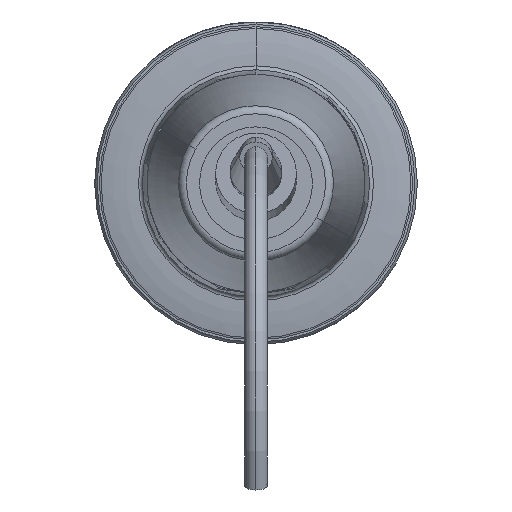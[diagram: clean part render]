
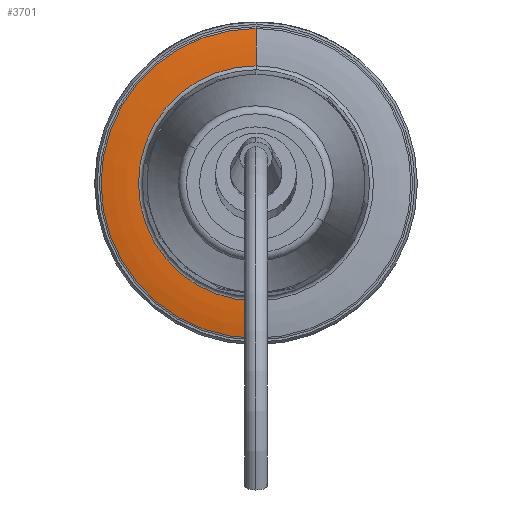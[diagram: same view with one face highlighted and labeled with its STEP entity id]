
A CAD part, left-side view. The second image highlights one B-rep face of the part: STEP entity #3701.
In plain terms, the highlighted toroidal (fillet/blend) face has major radius 14.106 mm and minor radius 25 mm.
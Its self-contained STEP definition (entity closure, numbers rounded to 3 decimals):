
#138 = CIRCLE ( 'NONE', #5643, 25. ) ;
#862 = DIRECTION ( 'NONE',  ( 0., 0., 1. ) ) ;
#933 = VERTEX_POINT ( 'NONE', #5128 ) ;
#1387 = CARTESIAN_POINT ( 'NONE',  ( -96.19, 0., 14.568 ) ) ;
#2043 = DIRECTION ( 'NONE',  ( -1., 0., 0. ) ) ;
#2473 = EDGE_LOOP ( 'NONE', ( #10089, #11073, #13579, #7158 ) ) ;
#3627 = CARTESIAN_POINT ( 'NONE',  ( -96.19, 0., 0. ) ) ;
#3701 = ADVANCED_FACE ( 'NONE', ( #12477 ), #8120, .T. ) ;
#3767 = AXIS2_PLACEMENT_3D ( 'NONE', #9332, #2043, #13643 ) ;
#4150 = VERTEX_POINT ( 'NONE', #8073 ) ;
#5128 = CARTESIAN_POINT ( 'NONE',  ( -95.669, 0., -19.204 ) ) ;
#5286 = EDGE_CURVE ( 'NONE', #7477, #4150, #12462, .T. ) ;
#5471 = AXIS2_PLACEMENT_3D ( 'NONE', #13300, #13207, #6768 ) ;
#5643 = AXIS2_PLACEMENT_3D ( 'NONE', #9126, #7040, #13518 ) ;
#6706 = DIRECTION ( 'NONE',  ( 0., 0., 1. ) ) ;
#6768 = DIRECTION ( 'NONE',  ( 0., 0., 1. ) ) ;
#7040 = DIRECTION ( 'NONE',  ( 0., -1., 0. ) ) ;
#7158 = ORIENTED_EDGE ( 'NONE', *, *, #9033, .F. ) ;
#7407 = CARTESIAN_POINT ( 'NONE',  ( -95.669, 0., 19.204 ) ) ;
#7477 = VERTEX_POINT ( 'NONE', #1387 ) ;
#7709 = EDGE_CURVE ( 'NONE', #12253, #933, #8768, .T. ) ;
#8073 = CARTESIAN_POINT ( 'NONE',  ( -96.19, 0., -14.568 ) ) ;
#8120 = TOROIDAL_SURFACE ( 'NONE', #3767, 14.106, 25. ) ;
#8362 = DIRECTION ( 'NONE',  ( -1., 0., 0. ) ) ;
#8716 = AXIS2_PLACEMENT_3D ( 'NONE', #11551, #8362, #862 ) ;
#8768 = CIRCLE ( 'NONE', #8716, 19.204 ) ;
#9033 = EDGE_CURVE ( 'NONE', #12253, #7477, #138, .T. ) ;
#9126 = CARTESIAN_POINT ( 'NONE',  ( -71.194, 0., 14.106 ) ) ;
#9332 = CARTESIAN_POINT ( 'NONE',  ( -71.194, 0., 0. ) ) ;
#9590 = CIRCLE ( 'NONE', #5471, 25. ) ;
#10013 = DIRECTION ( 'NONE',  ( -1., 0., 0. ) ) ;
#10045 = EDGE_CURVE ( 'NONE', #933, #4150, #9590, .T. ) ;
#10089 = ORIENTED_EDGE ( 'NONE', *, *, #7709, .T. ) ;
#11073 = ORIENTED_EDGE ( 'NONE', *, *, #10045, .T. ) ;
#11551 = CARTESIAN_POINT ( 'NONE',  ( -95.669, 0., 0. ) ) ;
#11773 = AXIS2_PLACEMENT_3D ( 'NONE', #3627, #10013, #6706 ) ;
#12253 = VERTEX_POINT ( 'NONE', #7407 ) ;
#12462 = CIRCLE ( 'NONE', #11773, 14.568 ) ;
#12477 = FACE_OUTER_BOUND ( 'NONE', #2473, .T. ) ;
#13207 = DIRECTION ( 'NONE',  ( 0., 1., 0. ) ) ;
#13300 = CARTESIAN_POINT ( 'NONE',  ( -71.194, 0., -14.106 ) ) ;
#13518 = DIRECTION ( 'NONE',  ( 0., 0., -1. ) ) ;
#13579 = ORIENTED_EDGE ( 'NONE', *, *, #5286, .F. ) ;
#13643 = DIRECTION ( 'NONE',  ( 0., 0., 1. ) ) ;
